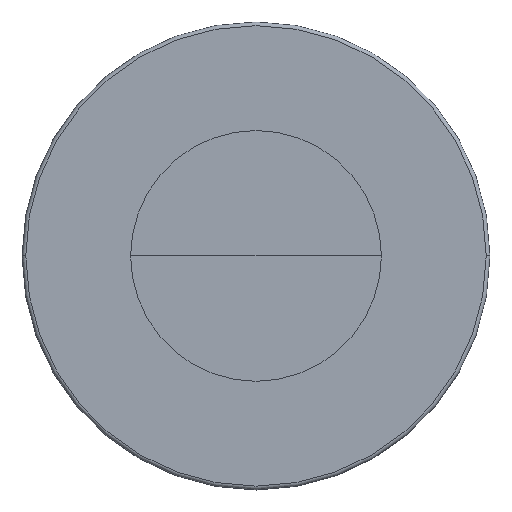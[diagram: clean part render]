
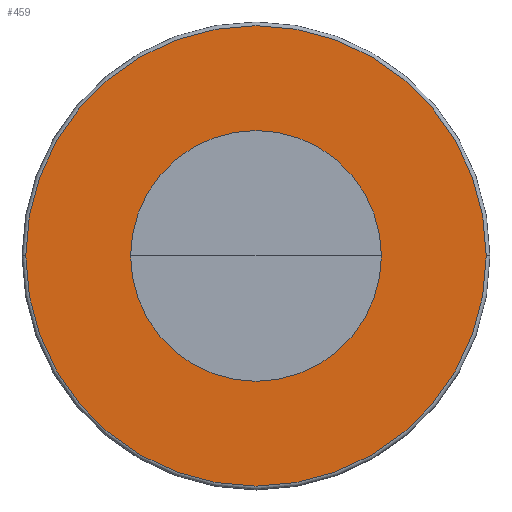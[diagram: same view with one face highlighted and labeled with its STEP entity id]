
A CAD part, top view. The second image highlights one B-rep face of the part: STEP entity #459.
In plain terms, the highlighted planar face has unit normal (0, 0, 1).
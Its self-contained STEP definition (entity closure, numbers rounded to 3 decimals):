
#9=CARTESIAN_POINT('',(0.,0.,2.953));
#10=DIRECTION('',(0.,0.,-1.));
#11=DIRECTION('',(1.,0.,0.));
#12=AXIS2_PLACEMENT_3D('',#9,#10,#11);
#14=CARTESIAN_POINT('',(0.,0.,2.953));
#15=DIRECTION('',(0.,0.,1.));
#16=DIRECTION('',(1.,0.,0.));
#17=AXIS2_PLACEMENT_3D('',#14,#15,#16);
#19=CARTESIAN_POINT('',(0.,0.,2.953));
#20=DIRECTION('',(0.,0.,-1.));
#21=DIRECTION('',(1.,0.,0.));
#22=AXIS2_PLACEMENT_3D('',#19,#20,#21);
#24=CARTESIAN_POINT('',(0.,0.,2.953));
#25=DIRECTION('',(0.,0.,-1.));
#26=DIRECTION('',(-1.,0.,0.));
#27=AXIS2_PLACEMENT_3D('',#24,#25,#26);
#378=CARTESIAN_POINT('',(1.695,0.,2.953));
#380=VERTEX_POINT('',#378);
#381=CARTESIAN_POINT('',(-1.695,0.,2.953));
#382=VERTEX_POINT('',#381);
#404=CARTESIAN_POINT('',(3.113,0.,2.953));
#405=CARTESIAN_POINT('',(-3.113,0.,2.953));
#406=VERTEX_POINT('',#404);
#407=VERTEX_POINT('',#405);
#444=CARTESIAN_POINT('',(0.,0.,2.953));
#445=DIRECTION('',(0.,0.,1.));
#446=DIRECTION('',(-1.,0.,0.));
#447=AXIS2_PLACEMENT_3D('',#444,#445,#446);
#448=PLANE('',#447);
#450=ORIENTED_EDGE('',*,*,#449,.T.);
#452=ORIENTED_EDGE('',*,*,#451,.T.);
#453=EDGE_LOOP('',(#450,#452));
#454=FACE_OUTER_BOUND('',#453,.F.);
#455=ORIENTED_EDGE('',*,*,#438,.F.);
#456=ORIENTED_EDGE('',*,*,#422,.T.);
#457=EDGE_LOOP('',(#455,#456));
#458=FACE_BOUND('',#457,.F.);
#459=ADVANCED_FACE('',(#454,#458),#448,.T.);
#13=CIRCLE('',#12,1.695);
#18=CIRCLE('',#17,1.695);
#23=CIRCLE('',#22,3.113);
#28=CIRCLE('',#27,3.113);
#422=EDGE_CURVE('',#380,#382,#18,.T.);
#438=EDGE_CURVE('',#380,#382,#13,.T.);
#449=EDGE_CURVE('',#406,#407,#23,.T.);
#451=EDGE_CURVE('',#407,#406,#28,.T.);
